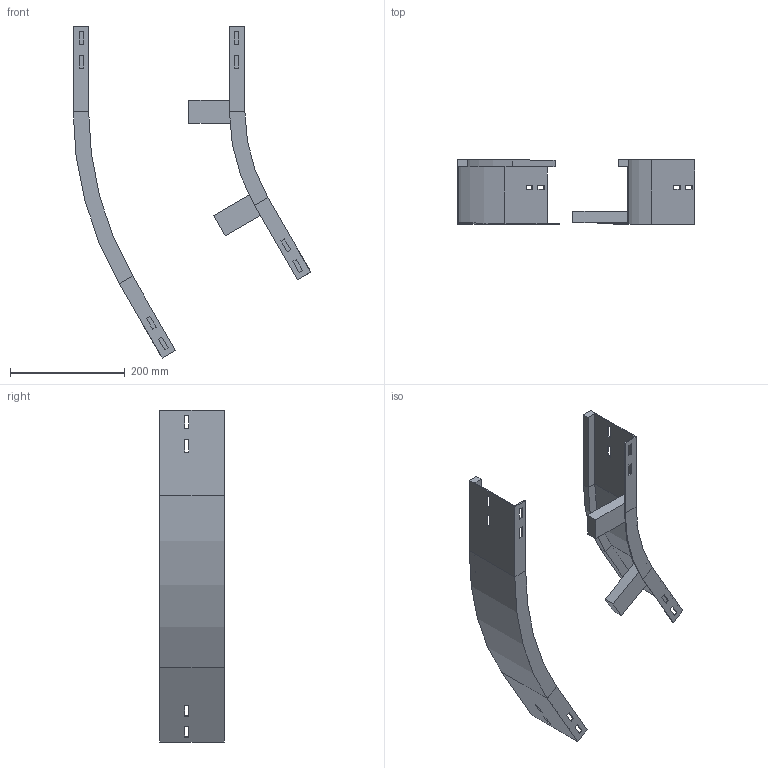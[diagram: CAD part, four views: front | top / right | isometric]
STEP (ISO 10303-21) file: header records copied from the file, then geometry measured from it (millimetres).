
FILE_DESCRIPTION (( 'STEP AP214' ), '1' );
FILE_NAME ('A2_12B3J100.step', '2025-02-21T15:08:45', ( '' ), ( '' ), 'SwSTEP 2.0', 'SolidWorks 2023', '' );
FILE_SCHEMA (( 'AUTOMOTIVE_DESIGN' ));
Length unit declared in the file: millimetre
Products named in the file (4): A2_LONGH.INTERNO 30°_H112.5_R300; A2_LONGH.ESTERNO 30°_H112.5_R300+100; TRAVERSINO_100; A2_12B3J100
Assembly tree (4 placements, depth 2):
  A2_12B3J100
    A2_LONGH.INTERNO 30°_H112.5_R300
    A2_LONGH.ESTERNO 30°_H112.5_R300+100
    TRAVERSINO_100  x2
Bounding box: 415.19 x 112.5 x 579.9 mm (x, y, z)
Volume: 650860.6 mm3; surface area: 358423.3 mm2
Topology: 4 solids, 4 shells, 128 faces, 328 edges, 208 vertices
Faces by surface type: plane 120, cylinder 8
Entity records: 3813 total; most frequent: CARTESIAN_POINT 645, ORIENTED_EDGE 632, DIRECTION 590, EDGE_CURVE 316, LINE 300, VECTOR 300, VERTEX_POINT 200, EDGE_LOOP 154
